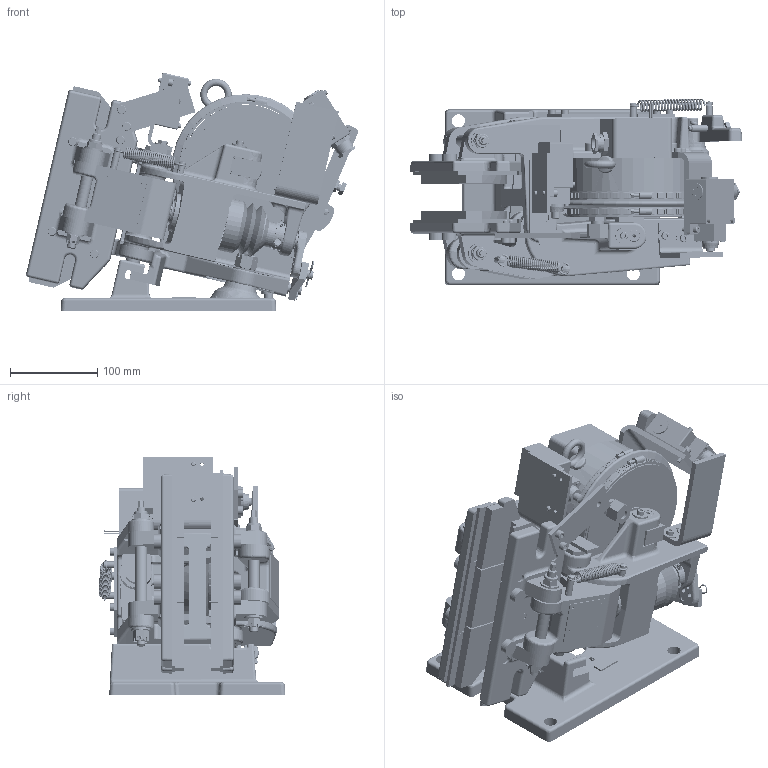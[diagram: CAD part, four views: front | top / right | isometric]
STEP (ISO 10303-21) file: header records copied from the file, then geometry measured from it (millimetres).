
FILE_DESCRIPTION((''),'2;1');
FILE_NAME('5_SE-CO-CU-CDEB_ASM','2026-01-07T15:06:03',('MAPM'),(''),'CREO PARAMETRIC BY PTC INC, 2025102','CREO PARAMETRIC BY PTC INC, 2025102','');
FILE_SCHEMA(('CONFIG_CONTROL_DESIGN','SHAPE_APPEARANCE_LAYERS_GROUPS'));
Products named in the file (155): VIS_CHC__M5-7-SOLID1_1; OPTION_CONTACT_BLOCAGE_MAN-13_1; OPTION_VRIN_LECTRI0028; 12193-600_PLAQUE_S0002; 11230-062-2-SOLID1_1; 11230-023_-_BUTE_D0002; 11230-014-1-SOLID1_1; VIS_CHC__M5-5-SOLID1_1; GOUPILLES_CANNELES0005; PORTE_GARNITURE__GARNITUR-126_1; OPTION_CONTACT_D_OUVERTUR-133_1; GOUPILLES_CANNELES0006; VIS_H__M6-2-SOLID1_1; RESSORT-2-SOLID1_1; OPTION_CONTACT_D_U0006; OPTION_VRIN_LECTRI0029; OPTION_VRIN_LECTRI0030; PORTE_GARNITURE__GARNITUR-249_1; 11230-018_-_COUVERCLE-1-SOLID_1; OPTION_VRIN_LECTRI0031; 12181-001_SEMELLE-1-SOLID1_1; VENTOUSE_MAGNETIQUE_D17-2-SOL_1; VIS_CHC__M5-4-SOLID1_1; PORTE_GARNITURE__GARNITUR-329_1; 11230-042_BIELETTE-1-SOLID1_1; GOUPILLES_CYLINDRIQUE_FENDUE-_1; VIS_CHC__M5-3-SOLID1_1; OPTION_RATTRAPAGE_D_USURE-342_1; RONDELLES_NORM_TYPE_L-1-SOLID_1; PORTE_GARNITURE__GARNITUR-364_1; OPTION_VRIN_LECTRI0032; 11230-026_-_AXE_ARMATURE-1-SO_1; PORTE_GARNITURE__GARNITUR-385_1; PORTE_GARNITURE__GARNITUR-394_1; OPTION_CONTACT_D_OUVERTUR-412_1; OPTION_RATTRAPAGE_D_USURE-427_1; VIS_CHC_M10-4-SOLID1_1; PORTE_GARNITURE__GARNITUR-487_1; OPTION_CONTACT_D_OUVERTUR-495_1; OPTION_VRIN_LECTRI0033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
Assembly tree (154 placements, depth 2):
  5_SE-CO-CU-CDEB_ASM
    VIS_CHC__M5-7-SOLID1_1
    OPTION_CONTACT_BLOCAGE_MAN-13_1
    OPTION_VRIN_LECTRI0028
    12193-600_PLAQUE_S0002
    11230-062-2-SOLID1_1
    11230-023_-_BUTE_D0002
    11230-014-1-SOLID1_1
    VIS_CHC__M5-5-SOLID1_1
    GOUPILLES_CANNELES0005
    PORTE_GARNITURE__GARNITUR-126_1
    OPTION_CONTACT_D_OUVERTUR-133_1
    GOUPILLES_CANNELES0006
    VIS_H__M6-2-SOLID1_1
    RESSORT-2-SOLID1_1
    OPTION_CONTACT_D_U0006
    OPTION_VRIN_LECTRI0029
    OPTION_VRIN_LECTRI0030
    PORTE_GARNITURE__GARNITUR-249_1
    11230-018_-_COUVERCLE-1-SOLID_1
    OPTION_VRIN_LECTRI0031
    12181-001_SEMELLE-1-SOLID1_1
    VENTOUSE_MAGNETIQUE_D17-2-SOL_1
    VIS_CHC__M5-4-SOLID1_1
    PORTE_GARNITURE__GARNITUR-329_1
    11230-042_BIELETTE-1-SOLID1_1
    GOUPILLES_CYLINDRIQUE_FENDUE-_1
    VIS_CHC__M5-3-SOLID1_1
    OPTION_RATTRAPAGE_D_USURE-342_1
    RONDELLES_NORM_TYPE_L-1-SOLID_1
    PORTE_GARNITURE__GARNITUR-364_1
    OPTION_VRIN_LECTRI0032
    11230-026_-_AXE_ARMATURE-1-SO_1
    PORTE_GARNITURE__GARNITUR-385_1
    PORTE_GARNITURE__GARNITUR-394_1
    OPTION_CONTACT_D_OUVERTUR-412_1
    OPTION_RATTRAPAGE_D_USURE-427_1
    VIS_CHC_M10-4-SOLID1_1
    PORTE_GARNITURE__GARNITUR-487_1
    OPTION_CONTACT_D_OUVERTUR-495_1
    OPTION_VRIN_LECTRI0033
    OPTION_RATTRAPAGE_D_USURE-512_1
    OPTION_VRIN_LECTRI0034
    OPTION_CONTACT_D_OUVERTUR-588_1
    OPTION_VRIN_LECTRI0035
    PORTE_GARNITURE__GARNITUR-599_1
    RONDELLES_NORM_TYPE_M-2-SOLID_1
    RONDELLE_CONCAVE_R0002
    OPTION_VRIN_LECTRI0036
    11230-039_-_ARRT_D0002
    12181-095_ENTRETOISE_AXE_CENT_1
    OPTION_RATTRAPAGE_D_USURE-714_1
    VIS_CHC__M5-6-SOLID1_1
    OPTION_VRIN_LECTRI0037
    OPTION_VRIN_LECTRI0038
    VENTOUSE_MAGNETIQUE_D17-5-SOL_1
    CROU_HM-2-SOLID1_10
    OPTION_VRIN_LECTRI0039
    RONDELLES_NORM_TYPE_L-10-SOLI_1
    VENTOUSE_MAGNETIQUE_D17-6-SOL_1
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Bounding box: 379.94 x 213.68 x 273.3 mm (x, y, z)
Volume: 4220672.4 mm3; surface area: 1189380.9 mm2
Topology: 154 solids, 154 shells, 6269 faces, 16206 edges, 10226 vertices
Faces by surface type: plane 3018, cylinder 1768, cone 495, bspline 416, torus 293, extrusion 148, sphere 131
Entity records: 301473 total; most frequent: CARTESIAN_POINT 95959, ORIENTED_EDGE 32046, DIRECTION 31779, PRESENTATION_STYLE_ASSIGNMENT 16177, STYLED_ITEM 16177, CURVE_STYLE 16023, EDGE_CURVE 16023, AXIS2_PLACEMENT_3D 11768
